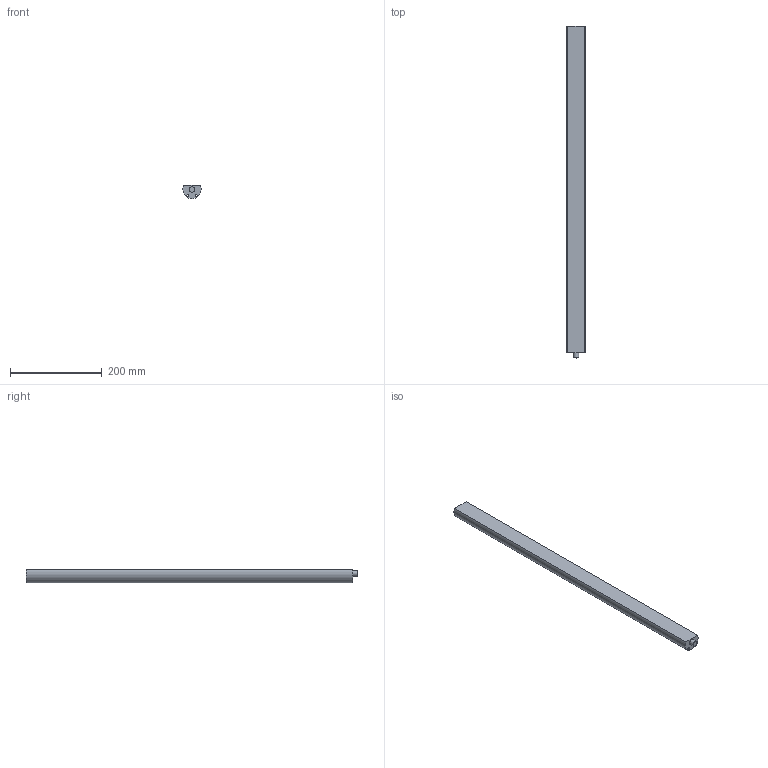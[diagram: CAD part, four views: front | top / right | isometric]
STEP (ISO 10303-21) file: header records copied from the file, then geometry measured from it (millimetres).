
FILE_DESCRIPTION(('FreeCAD Model'),'2;1');
FILE_NAME('Open CASCADE Shape Model','2024-04-10T10:59:02',(''),(''), 'Open CASCADE STEP processor 7.6','FreeCAD','Unknown');
FILE_SCHEMA(('AUTOMOTIVE_DESIGN { 1 0 10303 214 1 1 1 1 }'));
Length unit declared in the file: millimetre
Products named in the file (1): Körper
Bounding box: 39.96 x 722 x 29 mm (x, y, z)
Volume: 672400.5 mm3; surface area: 105751.6 mm2
Topology: 1 solids, 1 shells, 8 faces, 15 edges, 10 vertices
Faces by surface type: cylinder 4, plane 4
Full cylindrical faces by diameter (mm): 4.5 x2, 12 x1
Entity records: 237 total; most frequent: DIRECTION 41, CARTESIAN_POINT 34, ORIENTED_EDGE 30, AXIS2_PLACEMENT_3D 17, EDGE_CURVE 15, FACE_BOUND 13, EDGE_LOOP 13, VERTEX_POINT 10
